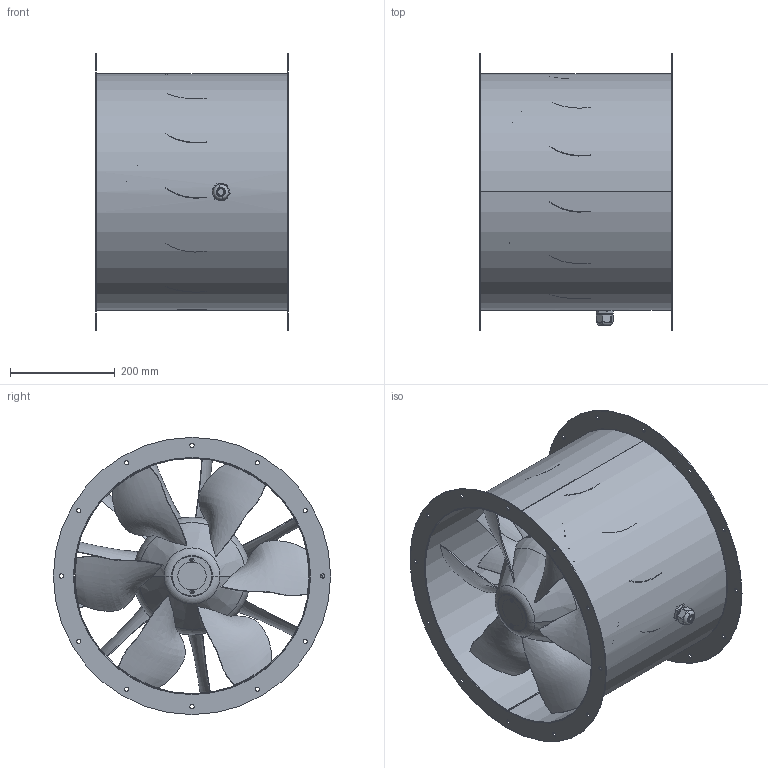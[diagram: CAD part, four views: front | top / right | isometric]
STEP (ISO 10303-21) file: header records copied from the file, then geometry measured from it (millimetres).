
FILE_DESCRIPTION (( 'STEP AP203' ), '1' );
FILE_NAME ('154100-00_AL450D401_step.step', '2020-05-29T08:33:15', ( '' ), ( '' ), 'SwSTEP 2.0', 'SolidWorks 2017', '' );
FILE_SCHEMA (( 'CONFIG_CONTROL_DESIGN' ));
Length unit declared in the file: millimetre
Products named in the file (1): 154100-00_AL450D401_step
Bounding box: 368 x 530 x 530 mm (x, y, z)
Surface area: 2055678.4 mm2 (no closed solid volume)
Topology: 0 solids, 68 shells, 960 faces, 3544 edges, 2635 vertices
Faces by surface type: plane 714, cylinder 133, bspline 76, torus 28, cone 9
Entity records: 355094 total; most frequent: CARTESIAN_POINT 327118, ORIENTED_EDGE 5325, DIRECTION 5084, EDGE_CURVE 3544, VERTEX_POINT 2635, VECTOR 2450, LINE 2450, AXIS2_PLACEMENT_3D 1317
